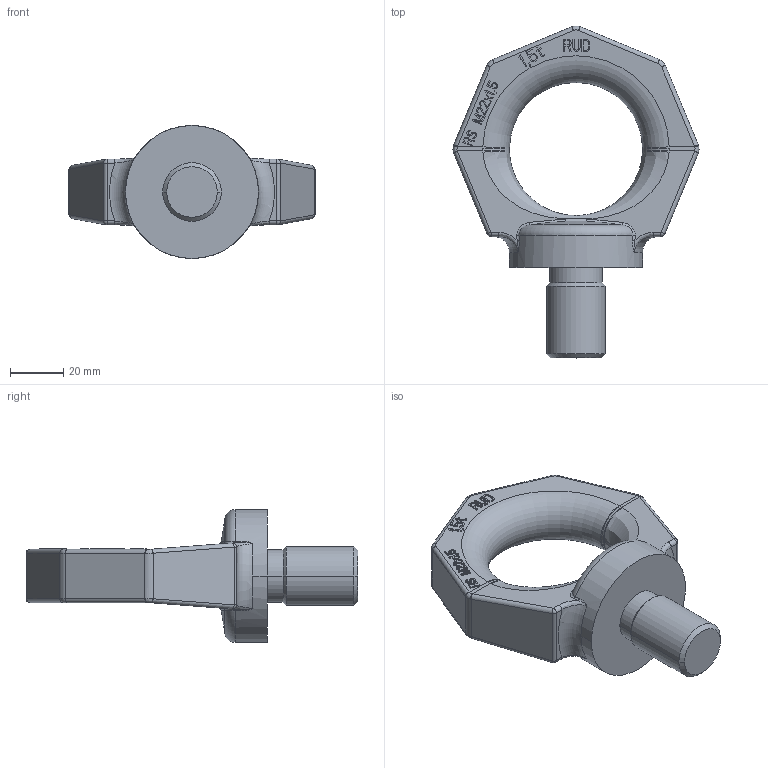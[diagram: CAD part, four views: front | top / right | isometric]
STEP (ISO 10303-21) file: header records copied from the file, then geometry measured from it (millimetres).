
FILE_DESCRIPTION((''),'2;1');
FILE_NAME('001-M31077-X17_ASM','2019-04-08T',('Roland.Jakubetz'),(''),'PRO/ENGINEER BY PARAMETRIC TECHNOLOGY CORPORATION, 2011490','PRO/ENGINEER BY PARAMETRIC TECHNOLOGY CORPORATION, 2011490','');
FILE_SCHEMA(('CONFIG_CONTROL_DESIGN'));
Length unit declared in the file: millimetre
Products named in the file (3): 001-M31077-X17; 001-M31077-Y17; 001-M31077-X17_ASM
Assembly tree (2 placements, depth 2):
  001-M31077-X17_ASM
    001-M31077-X17
    001-M31077-Y17
Bounding box: 92.43 x 124.7 x 50 mm (x, y, z)
Volume: 112439.9 mm3; surface area: 21714.2 mm2
Topology: 2 solids, 2 shells, 501 faces, 1356 edges, 876 vertices
Faces by surface type: plane 396, bspline 44, cylinder 36, torus 15, cone 6, sphere 4
Entity records: 17805 total; most frequent: CARTESIAN_POINT 5389, ORIENTED_EDGE 2712, DIRECTION 2310, EDGE_CURVE 1356, VECTOR 1146, LINE 1146, VERTEX_POINT 876, AXIS2_PLACEMENT_3D 582
